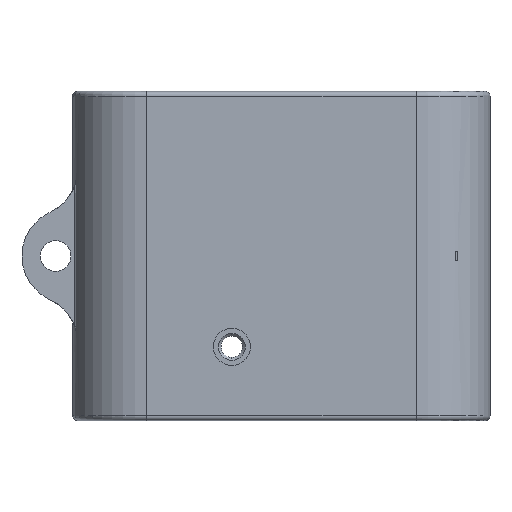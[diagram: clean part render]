
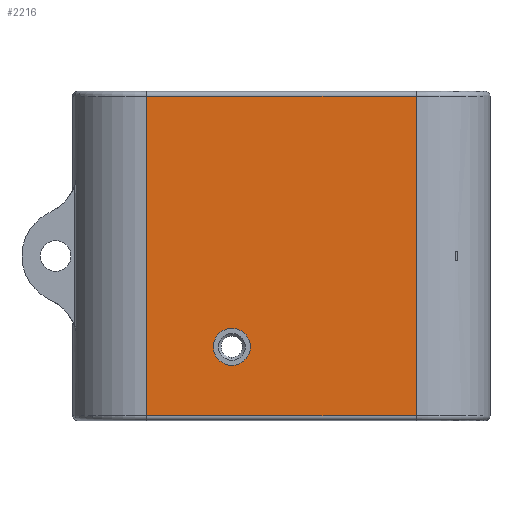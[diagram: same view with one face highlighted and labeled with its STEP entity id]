
A CAD part, front view. The second image highlights one B-rep face of the part: STEP entity #2216.
In plain terms, the highlighted planar face has unit normal (0, -1, 0).
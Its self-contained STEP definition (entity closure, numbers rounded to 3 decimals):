
#16 = ORIENTED_EDGE ( 'NONE', *, *, #2358, .T. ) ;
#65 = AXIS2_PLACEMENT_3D ( 'NONE', #1877, #1866, #1861 ) ;
#69 = CARTESIAN_POINT ( 'NONE',  ( 14.54, -7.2, -17.75 ) ) ;
#100 = DIRECTION ( 'NONE',  ( 0., 0., 1. ) ) ;
#137 = ORIENTED_EDGE ( 'NONE', *, *, #1831, .F. ) ;
#160 = EDGE_CURVE ( 'NONE', #796, #2064, #1347, .T. ) ;
#175 = AXIS2_PLACEMENT_3D ( 'NONE', #2492, #2514, #1069 ) ;
#214 = ORIENTED_EDGE ( 'NONE', *, *, #1062, .F. ) ;
#358 = VERTEX_POINT ( 'NONE', #859 ) ;
#392 = ORIENTED_EDGE ( 'NONE', *, *, #1142, .T. ) ;
#443 = CARTESIAN_POINT ( 'NONE',  ( 14.54, -7.2, -17.25 ) ) ;
#498 = EDGE_LOOP ( 'NONE', ( #2166, #137 ) ) ;
#516 = CARTESIAN_POINT ( 'NONE',  ( -14.54, -7.2, 17.25 ) ) ;
#578 = VERTEX_POINT ( 'NONE', #1432 ) ;
#647 = FACE_BOUND ( 'NONE', #498, .T. ) ;
#703 = FACE_OUTER_BOUND ( 'NONE', #1411, .T. ) ;
#796 = VERTEX_POINT ( 'NONE', #443 ) ;
#859 = CARTESIAN_POINT ( 'NONE',  ( -5.35, -7.2, -7.8 ) ) ;
#1062 = EDGE_CURVE ( 'NONE', #2098, #2564, #1409, .T. ) ;
#1069 = DIRECTION ( 'NONE',  ( 0., 0., -1. ) ) ;
#1142 = EDGE_CURVE ( 'NONE', #2098, #796, #2296, .T. ) ;
#1176 = CARTESIAN_POINT ( 'NONE',  ( -14.54, -7.2, -17.25 ) ) ;
#1214 = DIRECTION ( 'NONE',  ( 1., 0., 0. ) ) ;
#1249 = CARTESIAN_POINT ( 'NONE',  ( -14.54, -7.2, 17.25 ) ) ;
#1268 = DIRECTION ( 'NONE',  ( -1., 0., 0. ) ) ;
#1340 = VECTOR ( 'NONE', #1214, 1000. ) ;
#1347 = LINE ( 'NONE', #69, #1822 ) ;
#1392 = EDGE_CURVE ( 'NONE', #578, #358, #2190, .T. ) ;
#1409 = LINE ( 'NONE', #1839, #2437 ) ;
#1411 = EDGE_LOOP ( 'NONE', ( #214, #392, #2537, #16 ) ) ;
#1432 = CARTESIAN_POINT ( 'NONE',  ( -5.35, -7.2, -11.8 ) ) ;
#1625 = VECTOR ( 'NONE', #1268, 1000. ) ;
#1822 = VECTOR ( 'NONE', #100, 1000. ) ;
#1831 = EDGE_CURVE ( 'NONE', #358, #578, #2366, .T. ) ;
#1839 = CARTESIAN_POINT ( 'NONE',  ( -14.54, -7.2, -17.75 ) ) ;
#1861 = DIRECTION ( 'NONE',  ( 0., 0., -1. ) ) ;
#1866 = DIRECTION ( 'NONE',  ( 0., -1., 0. ) ) ;
#1877 = CARTESIAN_POINT ( 'NONE',  ( -5.35, -7.2, -9.8 ) ) ;
#1894 = DIRECTION ( 'NONE',  ( 0., 0., -1. ) ) ;
#1901 = DIRECTION ( 'NONE',  ( 0., -1., 0. ) ) ;
#1907 = PLANE ( 'NONE',  #2340 ) ;
#1929 = DIRECTION ( 'NONE',  ( 0., 0., 1. ) ) ;
#1952 = CARTESIAN_POINT ( 'NONE',  ( -14.54, -7.2, -17.75 ) ) ;
#2064 = VERTEX_POINT ( 'NONE', #2549 ) ;
#2091 = LINE ( 'NONE', #1249, #1625 ) ;
#2098 = VERTEX_POINT ( 'NONE', #2420 ) ;
#2166 = ORIENTED_EDGE ( 'NONE', *, *, #1392, .F. ) ;
#2190 = CIRCLE ( 'NONE', #65, 2. ) ;
#2216 = ADVANCED_FACE ( 'NONE', ( #647, #703 ), #1907, .T. ) ;
#2296 = LINE ( 'NONE', #1176, #1340 ) ;
#2340 = AXIS2_PLACEMENT_3D ( 'NONE', #1952, #1901, #1894 ) ;
#2358 = EDGE_CURVE ( 'NONE', #2064, #2564, #2091, .T. ) ;
#2366 = CIRCLE ( 'NONE', #175, 2. ) ;
#2420 = CARTESIAN_POINT ( 'NONE',  ( -14.54, -7.2, -17.25 ) ) ;
#2437 = VECTOR ( 'NONE', #1929, 1000. ) ;
#2492 = CARTESIAN_POINT ( 'NONE',  ( -5.35, -7.2, -9.8 ) ) ;
#2514 = DIRECTION ( 'NONE',  ( 0., -1., 0. ) ) ;
#2537 = ORIENTED_EDGE ( 'NONE', *, *, #160, .T. ) ;
#2549 = CARTESIAN_POINT ( 'NONE',  ( 14.54, -7.2, 17.25 ) ) ;
#2564 = VERTEX_POINT ( 'NONE', #516 ) ;
